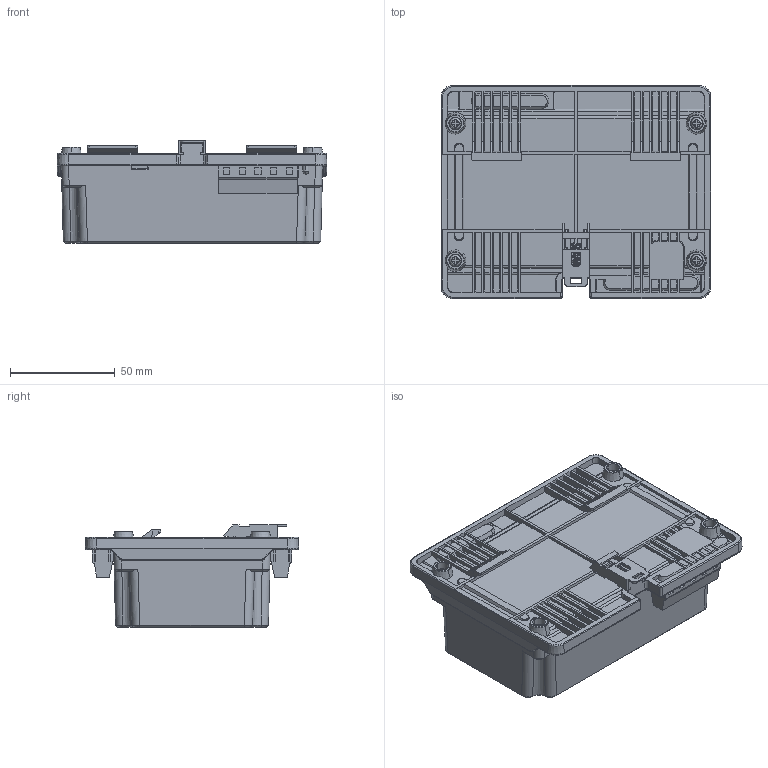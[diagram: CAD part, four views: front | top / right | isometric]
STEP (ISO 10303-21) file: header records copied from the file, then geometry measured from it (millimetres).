
FILE_DESCRIPTION((''),'2;1');
FILE_NAME('JVA401500SXX-D','2017-11-02T',('eng706'),(''),'PRO/ENGINEER BY PARAMETRIC TECHNOLOGY CORPORATION, 2014000','PRO/ENGINEER BY PARAMETRIC TECHNOLOGY CORPORATION, 2014000','');
FILE_SCHEMA(('AUTOMOTIVE_DESIGN { 1 0 10303 214 1 1 1 1 }'));
Products named in the file (1): JVA401500SXX-D
Bounding box: 129.01 x 102.02 x 49 mm (x, y, z)
Surface area: 104524.1 mm2 (no closed solid volume)
Topology: 0 solids, 2913 shells, 2913 faces, 15034 edges, 15006 vertices
Faces by surface type: plane 2019, cylinder 430, cone 163, bspline 114, torus 100, extrusion 65, sphere 22
Entity records: 211409 total; most frequent: CARTESIAN_POINT 59953, DIRECTION 20086, VERTEX_POINT 15006, ORIENTED_EDGE 15006, EDGE_CURVE 15006, VECTOR 11256, LINE 11191, PRESENTATION_STYLE_ASSIGNMENT 11027
